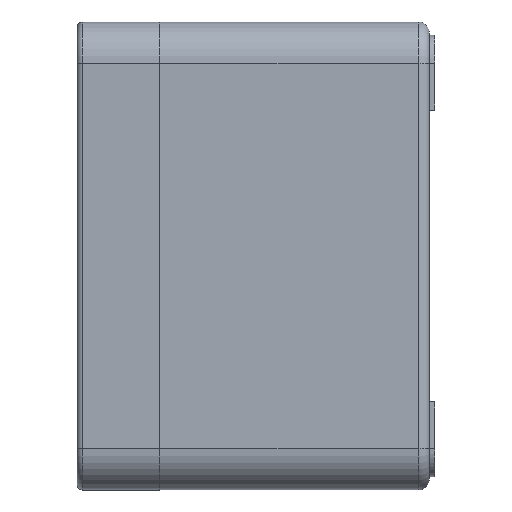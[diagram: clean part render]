
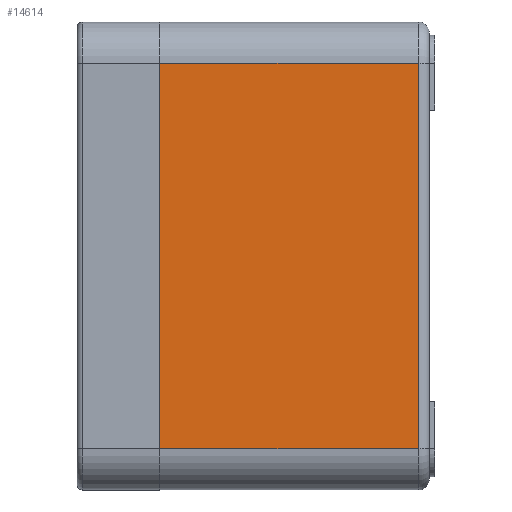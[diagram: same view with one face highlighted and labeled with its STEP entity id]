
A CAD part, left-side view. The second image highlights one B-rep face of the part: STEP entity #14614.
In plain terms, the highlighted planar face has unit normal (-1, 0, 0).
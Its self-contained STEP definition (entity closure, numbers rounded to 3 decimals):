
#1374 = EDGE_CURVE ( 'NONE', #17830, #9233, #10118, .T. ) ;
#2294 = LINE ( 'NONE', #3257, #19426 ) ;
#2710 = VECTOR ( 'NONE', #3099, 1000. ) ;
#2977 = ORIENTED_EDGE ( 'NONE', *, *, #21471, .F. ) ;
#3041 = PLANE ( 'NONE',  #3848 ) ;
#3099 = DIRECTION ( 'NONE',  ( 0., 0., 1. ) ) ;
#3257 = CARTESIAN_POINT ( 'NONE',  ( -42.5, -49., -35. ) ) ;
#3511 = CARTESIAN_POINT ( 'NONE',  ( -42.5, -47., 35. ) ) ;
#3524 = VERTEX_POINT ( 'NONE', #10144 ) ;
#3848 = AXIS2_PLACEMENT_3D ( 'NONE', #5046, #18216, #6977 ) ;
#5046 = CARTESIAN_POINT ( 'NONE',  ( -42.5, -49., -35. ) ) ;
#5081 = LINE ( 'NONE', #3511, #19536 ) ;
#5352 = DIRECTION ( 'NONE',  ( 0., 0., 1. ) ) ;
#5370 = VERTEX_POINT ( 'NONE', #14641 ) ;
#6977 = DIRECTION ( 'NONE',  ( 0., 0., 1. ) ) ;
#7224 = EDGE_LOOP ( 'NONE', ( #2977, #11905, #8375, #21962 ) ) ;
#7830 = CARTESIAN_POINT ( 'NONE',  ( -42.5, -49., 35. ) ) ;
#8375 = ORIENTED_EDGE ( 'NONE', *, *, #1374, .T. ) ;
#9233 = VERTEX_POINT ( 'NONE', #14080 ) ;
#10118 = LINE ( 'NONE', #7830, #14548 ) ;
#10144 = CARTESIAN_POINT ( 'NONE',  ( -42.5, -47., -35. ) ) ;
#10948 = DIRECTION ( 'NONE',  ( 0., 1., 0. ) ) ;
#11905 = ORIENTED_EDGE ( 'NONE', *, *, #23184, .T. ) ;
#12872 = LINE ( 'NONE', #14508, #2710 ) ;
#14080 = CARTESIAN_POINT ( 'NONE',  ( -42.5, 0., 35. ) ) ;
#14395 = FACE_OUTER_BOUND ( 'NONE', #7224, .T. ) ;
#14508 = CARTESIAN_POINT ( 'NONE',  ( -42.5, 0., -35. ) ) ;
#14548 = VECTOR ( 'NONE', #22719, 1000. ) ;
#14614 = ADVANCED_FACE ( 'NONE', ( #14395 ), #3041, .T. ) ;
#14641 = CARTESIAN_POINT ( 'NONE',  ( -42.5, 0., -35. ) ) ;
#17830 = VERTEX_POINT ( 'NONE', #20832 ) ;
#18216 = DIRECTION ( 'NONE',  ( -1., 0., 0. ) ) ;
#19426 = VECTOR ( 'NONE', #10948, 1000. ) ;
#19536 = VECTOR ( 'NONE', #5352, 1000. ) ;
#20832 = CARTESIAN_POINT ( 'NONE',  ( -42.5, -47., 35. ) ) ;
#21471 = EDGE_CURVE ( 'NONE', #3524, #5370, #2294, .T. ) ;
#21962 = ORIENTED_EDGE ( 'NONE', *, *, #23097, .F. ) ;
#22719 = DIRECTION ( 'NONE',  ( 0., 1., 0. ) ) ;
#23097 = EDGE_CURVE ( 'NONE', #5370, #9233, #12872, .T. ) ;
#23184 = EDGE_CURVE ( 'NONE', #3524, #17830, #5081, .T. ) ;
